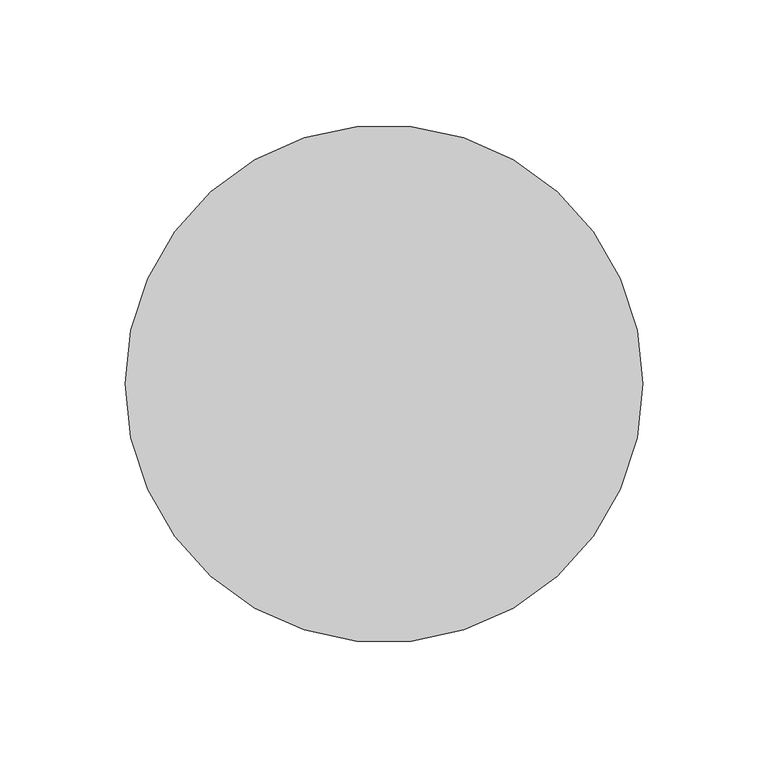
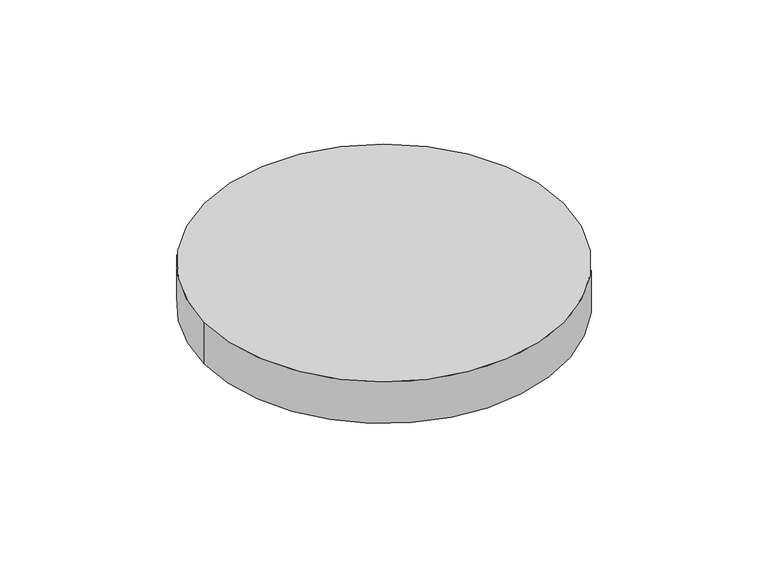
"""IFC4 building model written with IfcOpenShell, lengths in millimetres: light fixture geometry, LCMPD7R_SURFACE MOUNT BASIC : LCMPD7RW-T30."""

from ifc_helpers import new_model, si_unit, point, frame, frame_2d, origin, place, context, project, spatial, polyline, circle_curve, trimmed, segment, composite_curve, outline, extrude, source, transform, mapped, element, save
from ifc_brep_helpers import plane_surface, cylinder_surface, revolved_surface, advanced_brep


def light_fixture_fd9dc849(model_context):
    return source(origin(), model_context, "Body", "SolidModel", [
        advanced_brep(
        [(-103.1875, -33.7992882, 0.0), (103.1875, -33.7992882, 0.0), (-103.1875, -33.7992882, -25.4), (103.1875, -33.7992882, -25.4), (-88.9, -33.7992882, -25.4), (88.9, -33.7992882, -25.4), (88.9, -33.7992882, -21.9684516), (-88.9, -33.7992882, -21.9684516)],
        [
            (0, 1, circle_curve(frame((0.0, -33.7992882, 0.0), z_axis=(0.0, 0.0, 1.0), x_axis=(1.0, 0.0, 0.0)), 103.1875)),
            (1, 0, circle_curve(frame((0.0, -33.7992882, 0.0), z_axis=(0.0, 0.0, 1.0), x_axis=(1.0, 0.0, 0.0)), 103.1875)),
            (2, 3, circle_curve(frame((0.0, -33.7992882, -25.4), z_axis=(0.0, 0.0, -1.0), x_axis=(1.0, 0.0, 0.0)), 103.1875)),
            (3, 2, circle_curve(frame((0.0, -33.7992882, -25.4), z_axis=(0.0, 0.0, -1.0), x_axis=(1.0, 0.0, 0.0)), 103.1875)),
            (4, 5, circle_curve(frame((0.0, -33.7992882, -25.4), z_axis=(0.0, 0.0, 1.0), x_axis=(1.0, 0.0, 0.0)), 88.9)),
            (5, 4, circle_curve(frame((0.0, -33.7992882, -25.4), z_axis=(0.0, 0.0, 1.0), x_axis=(1.0, 0.0, 0.0)), 88.9)),
            (0, 2),
            (3, 1),
            (5, 6),
            (6, 7, circle_curve(frame((0.0, -33.7992882, -21.9684516), z_axis=(0.0, 0.0, 1.0), x_axis=(1.0, 0.0, 0.0)), 88.9)),
            (7, 4),
            (7, 6, circle_curve(frame((0.0, -33.7992882, -21.9684516), z_axis=(0.0, 0.0, 1.0), x_axis=(1.0, 0.0, 0.0)), 88.9)),
        ],
        [
            plane_surface(frame((103.1875, -33.7992882, 0.0), z_axis=(0.0, 0.0, 1.0), x_axis=(0.0, 1.0, 0.0))),
            plane_surface(frame((103.1875, -33.7992882, -25.4), z_axis=(0.0, 0.0, -1.0), x_axis=(0.0, -1.0, 0.0))),
            cylinder_surface(frame((0.0, -33.7992882, -25.4), z_axis=(0.0, 0.0, 1.0), x_axis=(1.0, 0.0, 0.0)), 103.1875),
            revolved_surface(polyline([(88.9, -33.7992882, -25.4), (88.9, -33.7992882, -21.9684516)]), (0.0, -33.7992882, 0.0), (0.0, 0.0, -1.0)),
            plane_surface(frame((88.9, -33.7992882, -21.9684516), z_axis=(0.0, 0.0, -1.0), x_axis=(0.0, -1.0, 0.0))),
        ],
        [
            (0, [[1, 2]]),
            (1, [[3, 4], [5, 6]]),
            (2, [[-1, 7, -4, 8]]),
            (2, [[-2, -8, -3, -7]]),
            (3, [[-6, 9, 10, 11]]),
            (3, [[-5, -11, 12, -9]]),
            (4, [[-10, -12]]),
        ],
    ),
        extrude(outline(composite_curve([segment(trimmed(circle_curve(frame_2d((0.0, -33.7992882)), 88.9), [point((-88.9, -33.7992882))], [point((88.9, -33.7992882))], False, "CARTESIAN"), True, "CONTINUOUS"), segment(trimmed(circle_curve(frame_2d((0.0, -33.7992882)), 88.9), [point((88.9, -33.7992882))], [point((-88.9, -33.7992882))], False, "CARTESIAN"), True, "CONTINUOUS")], self_intersect=False)), frame((0.0, 0.0, -23.6214963), z_axis=(0.0, 0.0, 1.0), x_axis=(1.0, 0.0, 0.0)), (0.0, 0.0, 1.0), 1.6530446),
    ])


if __name__ == "__main__":
    model = new_model("IFC4")
    model_context = context("Model", 3, world=origin())
    ifc_project = project(units=[si_unit("LENGTHUNIT", "METRE", prefix="MILLI")], contexts=[model_context])
    site = spatial("IfcSite", under=ifc_project)
    building = spatial("IfcBuilding", under=site)
    placement = place(None, origin())
    light_fixture_shape = light_fixture_fd9dc849(model_context)
    element("IfcLightFixture", 1, ObjectType="LCMPD7R_SURFACE MOUNT BASIC : LCMPD7RW-T30", at=placement, inside=building, context=model_context, shape_type="MappedRepresentation", body=[
        mapped(light_fixture_shape, transform((0.0, 0.0, 0.0), x_axis=(1.0, 0.0, 0.0), y_axis=(0.0, 1.0, 0.0), z_axis=(0.0, 0.0, 1.0))),
    ])
    save(model, "model.ifc")
